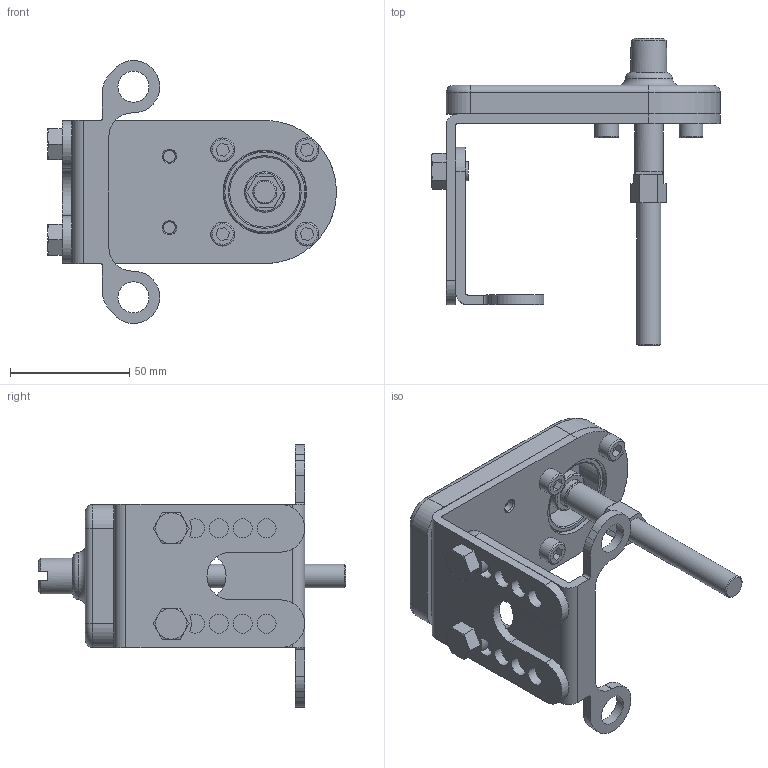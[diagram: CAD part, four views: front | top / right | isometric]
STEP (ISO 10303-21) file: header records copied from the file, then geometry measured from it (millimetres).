
FILE_DESCRIPTION( ( 'STEP AP203' ), '1' );
FILE_NAME( 'p:/temp/worker_136/temp/exporttempdir_2044_71_dM550/format_5/E12590.stp', '2022-02-09T10:33:09', ( 'License CC BY-ND 4.0' ), ( 'CADENAS' ), ' ', 'PARTsolutions', ' ' );
FILE_SCHEMA( ( 'CONFIG_CONTROL_DESIGN' ) );
Length unit declared in the file: millimetre
Products named in the file (6): E12590; _E12590_P1; _E12590_P2; _E12590_P6; _E12590_P3; _E12590_P4
Assembly tree (5 placements, depth 2):
  E12590
    _E12590_P1
    _E12590_P2
    _E12590_P6
    _E12590_P3
    _E12590_P4
Bounding box: 121.1 x 129.05 x 110.35 mm (x, y, z)
Volume: 101233.6 mm3; surface area: 65326.5 mm2
Topology: 5 solids, 5 shells, 263 faces, 632 edges, 411 vertices
Faces by surface type: plane 133, cylinder 83, cone 26, torus 21
Full cylindrical faces by diameter (mm): 4.8 x1, 4.917 x4, 5 x5, 6 x4, 8 x10, 9.6 x2, 10 x5, 11.1 x1, 11.9 x2, 12 x1, 13 x2, 15 x1, 17 x1, 29.5 x1, 34.5 x1, 35 x1
Entity records: 7519 total; most frequent: CARTESIAN_POINT 1380, DIRECTION 1276, ORIENTED_EDGE 1098, EDGE_CURVE 549, AXIS2_PLACEMENT_3D 498, VERTEX_POINT 390, EDGE_LOOP 388, FACE_OUTER_BOUND 314
